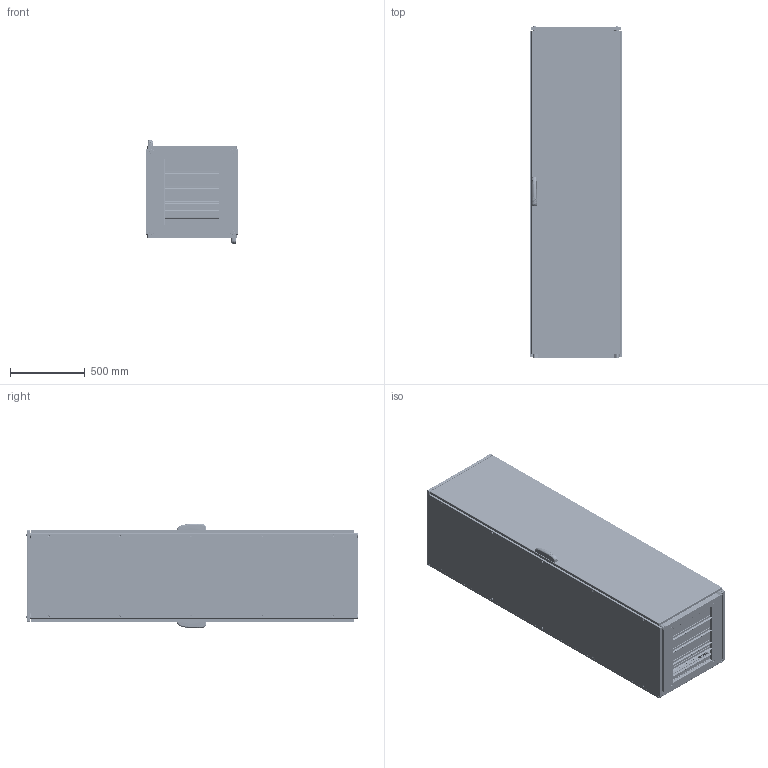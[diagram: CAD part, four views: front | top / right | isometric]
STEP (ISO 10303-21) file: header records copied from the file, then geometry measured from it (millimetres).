
FILE_DESCRIPTION (( 'STEP AP203' ), '1' );
FILE_NAME ('ENUX062206DP.STEP', '2025-05-29T11:41:27', ( '' ), ( '' ), 'SwSTEP 2.0', 'SolidWorks 2022', '' );
FILE_SCHEMA (( 'CONFIG_CONTROL_DESIGN' ));
Length unit declared in the file: millimetre
Products named in the file (13): AR_ENUX_Fianco_0600x2200_SX; AR_ENUX_Fianco_0600x2200_DX; AR_ENUX_nuova_maniglia_mesan; AR_ENUX_Porta_singola_2.0_0600x2200_ANT; AR_ENUX_Tetto_0600x0600; AR_ENUX_Vite_tetto; AR_ENUX_Tegolino_0600x0050; ENUX062206DP; AR_ENUX_montaggio_porta_singlola_2.0_0600x2200_POST_DX; AR_ENUX_Struttura_0600x2200x0600; AR_ENUX_Tegolino_0600x0100; AR_ENUX_montaggio_porta_singlola_2.0_0600x2200_ANT_DX; AR_ENUX_Porta_singola_2.0_0600x2200_POST
Assembly tree (19 placements, depth 3):
  ENUX062206DP
    AR_ENUX_Struttura_0600x2200x0600
    AR_ENUX_montaggio_porta_singlola_2.0_0600x2200_ANT_DX
      AR_ENUX_Porta_singola_2.0_0600x2200_ANT
      AR_ENUX_nuova_maniglia_mesan
    AR_ENUX_montaggio_porta_singlola_2.0_0600x2200_POST_DX
      AR_ENUX_Porta_singola_2.0_0600x2200_POST
      AR_ENUX_nuova_maniglia_mesan
    AR_ENUX_Fianco_0600x2200_SX
    AR_ENUX_Fianco_0600x2200_DX
    AR_ENUX_Tetto_0600x0600
    AR_ENUX_Vite_tetto  x4
    AR_ENUX_Tegolino_0600x0100  x3
    AR_ENUX_Tegolino_0600x0050  x2
Bounding box: 612 x 2215.1 x 700 mm (x, y, z)
Volume: 14642966.5 mm3; surface area: 18939167.5 mm2
Topology: 17 solids, 17 shells, 9858 faces, 27979 edges, 18066 vertices
Faces by surface type: plane 5159, cylinder 3748, bspline 390, torus 273, cone 224, sphere 64
Entity records: 358528 total; most frequent: CARTESIAN_POINT 95734, ORIENTED_EDGE 54348, DIRECTION 52403, EDGE_CURVE 27174, VECTOR 18335, LINE 18335, VERTEX_POINT 17694, AXIS2_PLACEMENT_3D 17034
